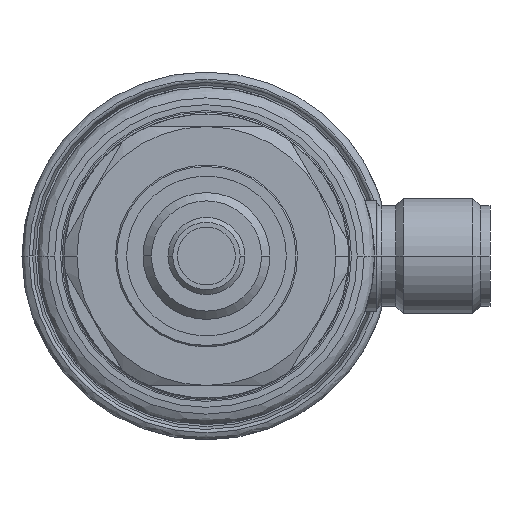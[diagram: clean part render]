
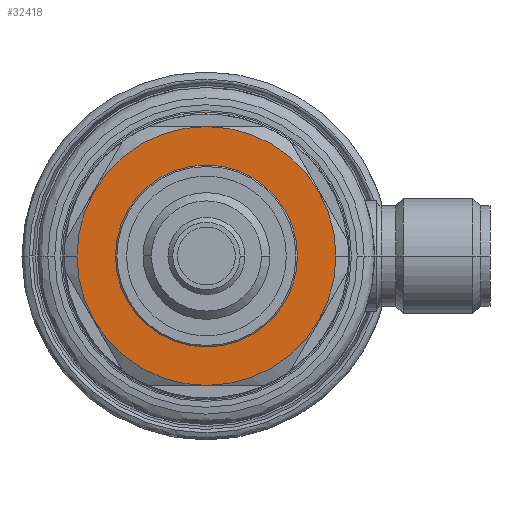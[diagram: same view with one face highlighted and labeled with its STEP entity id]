
A CAD part, front view. The second image highlights one B-rep face of the part: STEP entity #32418.
In plain terms, the highlighted free-form (B-spline) face has degree [1, 1] with [2, 2] control points.
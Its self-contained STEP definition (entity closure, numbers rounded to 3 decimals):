
#7921=CARTESIAN_POINT('',(0.05,-18.9,0.));
#7922=DIRECTION('',(0.,1.,0.));
#7923=DIRECTION('',(1.,0.,0.));
#7924=AXIS2_PLACEMENT_3D('',#7921,#7922,#7923);
#7926=CARTESIAN_POINT('',(0.05,-18.9,0.));
#7927=DIRECTION('',(0.,-1.,0.));
#7928=DIRECTION('',(1.,0.,0.));
#7929=AXIS2_PLACEMENT_3D('',#7926,#7927,#7928);
#7931=CARTESIAN_POINT('',(0.05,-18.9,0.));
#7932=DIRECTION('',(0.,-1.,0.));
#7933=DIRECTION('',(1.,0.,0.));
#7934=AXIS2_PLACEMENT_3D('',#7931,#7932,#7933);
#7936=CARTESIAN_POINT('',(0.05,-18.9,0.));
#7937=DIRECTION('',(0.,1.,0.));
#7938=DIRECTION('',(1.,0.,0.));
#7939=AXIS2_PLACEMENT_3D('',#7936,#7937,#7938);
#23391=CARTESIAN_POINT('',(9.5,-18.9,0.));
#23392=CARTESIAN_POINT('',(-9.4,-18.9,0.));
#23393=VERTEX_POINT('',#23391);
#23394=VERTEX_POINT('',#23392);
#23415=CARTESIAN_POINT('',(13.5,-18.9,0.));
#23417=VERTEX_POINT('',#23415);
#23425=CARTESIAN_POINT('',(-13.4,-18.9,0.));
#23427=VERTEX_POINT('',#23425);
#32403=CARTESIAN_POINT('',(14.038,-18.9,14.002));
#32404=CARTESIAN_POINT('',(14.038,-18.9,-14.002));
#32405=CARTESIAN_POINT('',(-13.938,-18.9,14.002));
#32406=CARTESIAN_POINT('',(-13.938,-18.9,-14.002));
#32407=B_SPLINE_SURFACE_WITH_KNOTS('',1,1,((#32403,#32404),(#32405,#32406)),
.UNSPECIFIED.,.F.,.F.,.F.,(2,2),(2,2),(-13.988,13.988),(-14.002,
14.002),.UNSPECIFIED.);
#32408=ORIENTED_EDGE('',*,*,#32371,.T.);
#32409=ORIENTED_EDGE('',*,*,#32396,.F.);
#32410=EDGE_LOOP('',(#32408,#32409));
#32411=FACE_OUTER_BOUND('',#32410,.F.);
#32413=ORIENTED_EDGE('',*,*,#32412,.T.);
#32415=ORIENTED_EDGE('',*,*,#32414,.F.);
#32416=EDGE_LOOP('',(#32413,#32415));
#32417=FACE_BOUND('',#32416,.F.);
#7925=CIRCLE('',#7924,13.45);
#7930=CIRCLE('',#7929,13.45);
#7935=CIRCLE('',#7934,9.45);
#7940=CIRCLE('',#7939,9.45);
#32371=EDGE_CURVE('',#23417,#23427,#7925,.T.);
#32396=EDGE_CURVE('',#23417,#23427,#7930,.T.);
#32412=EDGE_CURVE('',#23393,#23394,#7935,.T.);
#32414=EDGE_CURVE('',#23393,#23394,#7940,.T.);
#32418=ADVANCED_FACE('',(#32411,#32417),#32407,.T.);
